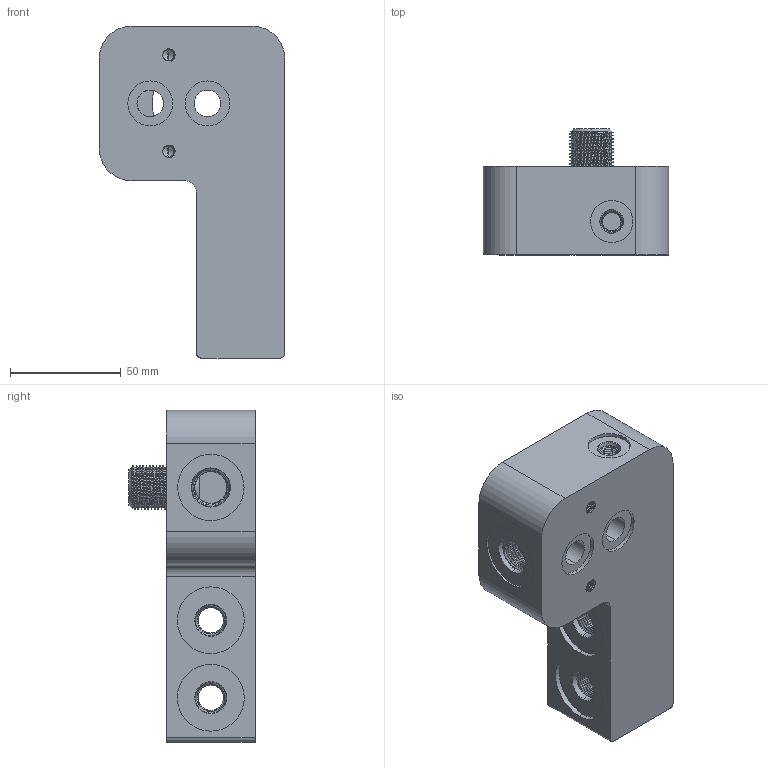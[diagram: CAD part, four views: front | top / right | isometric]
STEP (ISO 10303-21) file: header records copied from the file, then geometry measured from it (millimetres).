
FILE_DESCRIPTION (( 'STEP AP203' ), '1' );
FILE_NAME ('Oil filter plate - complete(orb fittings).STEP', '2017-03-25T04:48:01', ( '' ), ( '' ), 'SwSTEP 2.0', 'SolidWorks 2016', '' );
FILE_SCHEMA (( 'CONFIG_CONTROL_DESIGN' ));
Length unit declared in the file: millimetre
Products named in the file (1): Oil filter plate - complete(orb fittings)
Bounding box: 84 x 57 x 150 mm (x, y, z)
Volume: 302210.1 mm3; surface area: 52061.9 mm2
Topology: 1 solids, 1 shells, 347 faces, 967 edges, 630 vertices
Faces by surface type: cylinder 222, cone 46, plane 35, bspline 30, torus 14
Entity records: 29736 total; most frequent: CARTESIAN_POINT 22121, ORIENTED_EDGE 1926, DIRECTION 1242, EDGE_CURVE 963, VERTEX_POINT 630, AXIS2_PLACEMENT_3D 469, EDGE_LOOP 373, FACE_OUTER_BOUND 347
